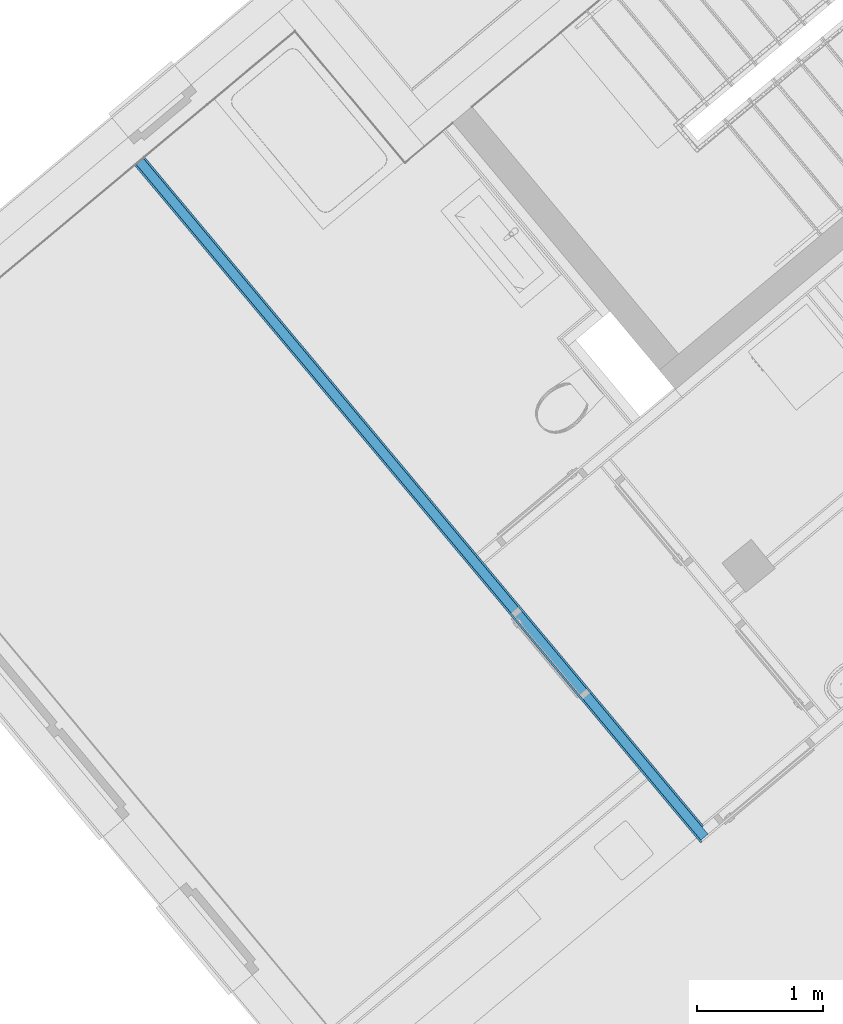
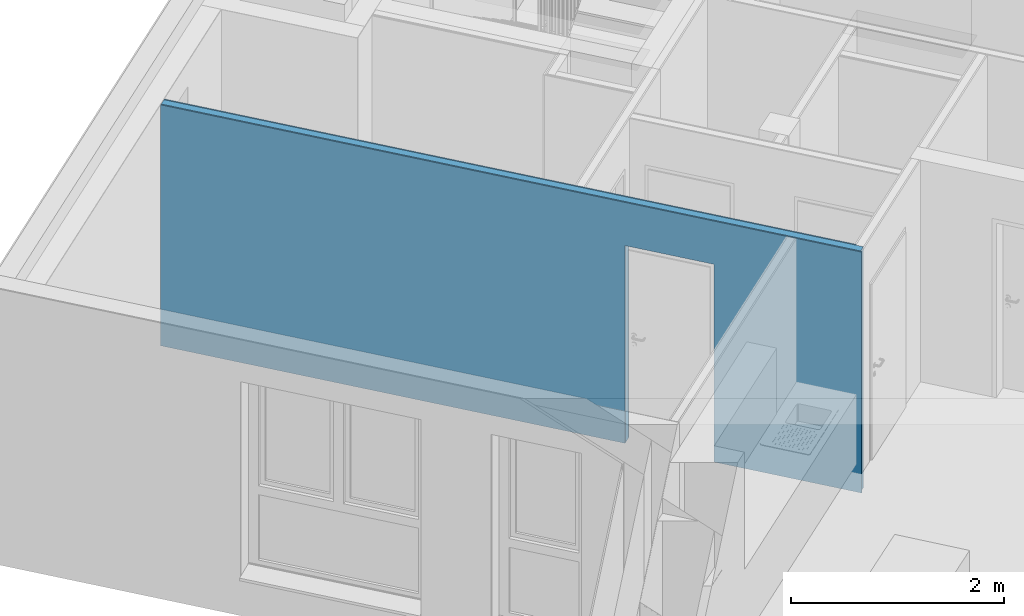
# One storey, part 2 of 53: 3 building element parts, 1 opening, 1 element without a shape of its own.
"""IFC4 building model written with IfcOpenShell, lengths in metres."""

import ifcopenshell
import ifcopenshell.guid

model = None  # the IFC model being written
_history = None  # IfcOwnerHistory: only IFC2X3 demands one
_inside = {}  # id of a spatial element -> (the spatial element, [elements in it])
_under = {}  # id of a project, library or spatial element -> (it, [spatial elements below it])
_declared = {}  # id of a project -> (the project, [libraries it declares])
_typed = {}  # id of a type object -> (the type object, [elements of that type])
_made_of = {}  # id of a material, layer set ... -> (it, [elements and type objects made of it])


def new_model(schema):
    """Start an empty IFC model of exactly this schema.

    Asked for "IFC4X3", IfcOpenShell would pick the latest addendum, in which some entities
    have other attributes; the version numbers below select the first issue.
    IFC2X3 requires an IfcOwnerHistory on every rooted entity: one is made here for all.
    """
    global model, _history
    if schema == "IFC4X3":
        model = ifcopenshell.file(schema_version=(4, 3, 0, 0))
    else:
        model = ifcopenshell.file(schema=schema)
    _inside.clear()
    _under.clear()
    _declared.clear()
    _typed.clear()
    _made_of.clear()
    _history = None
    if model.schema == "IFC2X3":
        org = make("IfcOrganization", Name="unknown")
        user = make(
            "IfcPersonAndOrganization",
            ThePerson=make("IfcPerson", FamilyName="unknown"),
            TheOrganization=org,
        )
        app = make(
            "IfcApplication",
            ApplicationDeveloper=org,
            Version="unknown",
            ApplicationFullName="unknown",
            ApplicationIdentifier="unknown",
        )
        _history = make(
            "IfcOwnerHistory",
            OwningUser=user,
            OwningApplication=app,
            ChangeAction="ADDED",
            CreationDate=0,
        )
    return model


def make(cls, **values):
    """One entity of the class cls with the attributes given. An attribute that is None is left unset."""
    return model.create_entity(
        cls, **{name: value for name, value in values.items() if value is not None}
    )


def entity(cls, *values):
    """Any entity or typed value of the class cls, its attributes in the order of the schema. None: left unset."""
    e = model.create_entity(cls)
    for i, value in enumerate(values):
        if value is not None:
            e[i] = value
    return e


def rooted(cls, **values):
    """An entity with a GlobalId (a new one), such as an element, a storey or a relation."""
    return make(cls, GlobalId=ifcopenshell.guid.new(), OwnerHistory=_history, **values)


def si_unit(unit_type, name, prefix=None):
    """IfcSIUnit, for example si_unit("LENGTHUNIT", "METRE", prefix="MILLI")."""
    return make("IfcSIUnit", UnitType=unit_type, Prefix=prefix, Name=name)


def converted_unit(unit_type, name, factor, base, dimensions=None, offset=None):
    """IfcConversionBasedUnit, such as the inch: factor (a typed value) times the base unit."""
    return make(
        "IfcConversionBasedUnit"
        if offset is None
        else "IfcConversionBasedUnitWithOffset",
        ConversionOffset=offset,
        Dimensions=None
        if dimensions is None
        else entity("IfcDimensionalExponents", *dimensions),
        UnitType=unit_type,
        Name=name,
        ConversionFactor=make(
            "IfcMeasureWithUnit", ValueComponent=factor, UnitComponent=base
        ),
    )


def derived_unit(unit_type, elements):
    """IfcDerivedUnit: a product of units, each with its exponent."""
    return make(
        "IfcDerivedUnit",
        Elements=[
            make("IfcDerivedUnitElement", Unit=unit, Exponent=power)
            for unit, power in elements
        ],
        UnitType=unit_type,
    )


def assignment(units):
    """IfcUnitAssignment: the units of a project."""
    return None if units is None else make("IfcUnitAssignment", Units=units)


def point(xyz):
    """IfcCartesianPoint."""
    return None if xyz is None else make("IfcCartesianPoint", Coordinates=xyz)


def direction(xyz):
    """IfcDirection."""
    return None if xyz is None else make("IfcDirection", DirectionRatios=xyz)


def frame(location, z_axis=None, x_axis=None):
    """IfcAxis2Placement3D, a coordinate frame: its origin and axes. An axis left out is left unset."""
    return make(
        "IfcAxis2Placement3D",
        Location=point(location),
        Axis=direction(z_axis),
        RefDirection=direction(x_axis),
    )


def origin_with_axes():
    """The frame at (0, 0, 0) with the z axis (0, 0, 1) and the x axis (1, 0, 0) written out."""
    return frame((0.0, 0.0, 0.0), z_axis=(0.0, 0.0, 1.0), x_axis=(1.0, 0.0, 0.0))


def place(relative_to, where):
    """IfcLocalPlacement: puts the frame where relative to a parent placement (None: the world)."""
    return make(
        "IfcLocalPlacement", PlacementRelTo=relative_to, RelativePlacement=where
    )


def context(
    kind, dimensions, precision=None, world=None, true_north=None, identifier=None
):
    """IfcGeometricRepresentationContext, for example the 3D "Model" context."""
    return make(
        "IfcGeometricRepresentationContext",
        ContextIdentifier=identifier,
        ContextType=kind,
        CoordinateSpaceDimension=dimensions,
        Precision=precision,
        WorldCoordinateSystem=world,
        TrueNorth=true_north,
    )


def subcontext(parent, identifier, kind, view, scale=None):
    """IfcGeometricRepresentationSubContext, for example "Body" below "Model"."""
    return make(
        "IfcGeometricRepresentationSubContext",
        ContextIdentifier=identifier,
        ContextType=kind,
        ParentContext=parent,
        TargetScale=scale,
        TargetView=view,
    )


def project(units=None, contexts=None):
    """IfcProject with its units and contexts."""
    return rooted(
        "IfcProject",
        Name="project",
        RepresentationContexts=contexts,
        UnitsInContext=assignment(units),
    )


def spatial(cls, under=None, at=None, **own):
    """A site, building, storey or space (cls), placed at a placement, below another one or the project."""
    s = rooted(cls, ObjectPlacement=at, **own)
    if under is not None:
        _under.setdefault(under.id(), (under, []))[1].append(s)
    return s


def point_list(points):
    """IfcCartesianPointList2D or 3D."""
    cls = (
        "IfcCartesianPointList2D" if len(points[0]) == 2 else "IfcCartesianPointList3D"
    )
    return make(cls, CoordList=points)


def polygons(points, faces, closed=None, point_numbers=None):
    """IfcPolygonalFaceSet: a face is its outer loop, then its inner loops; points numbered from 1."""
    made = []
    for loops in faces:
        if len(loops) == 1:
            made.append(make("IfcIndexedPolygonalFace", CoordIndex=loops[0]))
        else:
            made.append(
                make(
                    "IfcIndexedPolygonalFaceWithVoids",
                    CoordIndex=loops[0],
                    InnerCoordIndices=loops[1:],
                )
            )
    return make(
        "IfcPolygonalFaceSet",
        Coordinates=point_list(points),
        Closed=closed,
        Faces=made,
        PnIndex=point_numbers,
    )


def shape(context_of_items, identifier, shape_type, items):
    """IfcShapeRepresentation: the items that make up one representation, for example the "Body"."""
    return make(
        "IfcShapeRepresentation",
        ContextOfItems=context_of_items,
        RepresentationIdentifier=identifier,
        RepresentationType=shape_type,
        Items=items,
    )


def material(Name=None, Category=None):
    """IfcMaterial."""
    return make("IfcMaterial", Name=Name, Category=Category)


def made_of(thing, what):
    """Note that an element or type object is made of a material, layer set ...; save() writes the relation."""
    if what is not None:
        _made_of.setdefault(what.id(), (what, []))[1].append(thing)
    return thing


def type_object(cls, material=None, **own):
    """A type object (cls), such as IfcWallType, which elements share."""
    return made_of(rooted(cls, **own), material)


def element(
    cls,
    number,
    at=None,
    inside=None,
    cuts=None,
    type_object=None,
    material=None,
    context=None,
    identifier="Body",
    shape_type=None,
    held_by="IfcProductDefinitionShape",
    body=None,
    shapes=None,
    **own,
):
    """One element of the class cls, such as IfcWall. Its Tag is "e" and its number.

    at: its placement. inside: the storey or other place that contains it. cuts: it is an
    opening in that element (IfcRelVoidsElement). A single representation is given by context,
    identifier, shape_type and body (its items); several are given by shapes. held_by: the class
    of the entity that holds the representations. save() writes the other relations.
    """
    e = rooted(cls, Tag="e%d" % number, ObjectPlacement=at, **own)
    if body is not None:
        shapes = [shape(context, identifier, shape_type, body)]
    if shapes is not None:
        e.Representation = make(held_by, Representations=shapes)
    if inside is not None:
        _inside.setdefault(inside.id(), (inside, []))[1].append(e)
    if cuts is not None:
        rooted(
            "IfcRelVoidsElement", RelatingBuildingElement=cuts, RelatedOpeningElement=e
        )
    if type_object is not None:
        _typed.setdefault(type_object.id(), (type_object, []))[1].append(e)
    return made_of(e, material)


def aggregate(whole, parts):
    """IfcRelAggregates: a whole, such as a stair, and the parts it consists of."""
    return rooted("IfcRelAggregates", RelatingObject=whole, RelatedObjects=parts)


def save(model, path):
    """Write the relations noted so far, then the file.

    IfcRelAggregates (storeys below a building ...), IfcRelContainedInSpatialStructure (elements
    in a storey), IfcRelDefinesByType, IfcRelAssociatesMaterial and IfcRelDeclares: one each for
    every whole, place, type object, material and project.
    """
    for whole, parts in _under.values():
        aggregate(whole, parts)
    for where, things in _inside.values():
        rooted(
            "IfcRelContainedInSpatialStructure",
            RelatedElements=things,
            RelatingStructure=where,
        )
    for kind, things in _typed.values():
        rooted("IfcRelDefinesByType", RelatedObjects=things, RelatingType=kind)
    for what, things in _made_of.values():
        rooted("IfcRelAssociatesMaterial", RelatedObjects=things, RelatingMaterial=what)
    for by, libraries in _declared.values():
        rooted("IfcRelDeclares", RelatingContext=by, RelatedDefinitions=libraries)
    model.write(path)


model = new_model("IFC4")

# Units and contexts
model_context = context("Model", 3, precision=1e-05, world=origin_with_axes(), true_north=direction((0.0, 1.0)))
body_context = subcontext(model_context, "Body", "Model", "MODEL_VIEW")
ifc_project = project(units=[si_unit("LENGTHUNIT", "METRE"), si_unit("AREAUNIT", "SQUARE_METRE"), si_unit("VOLUMEUNIT", "CUBIC_METRE"), converted_unit("PLANEANGLEUNIT", "DEGREE", entity("IfcPlaneAngleMeasure", 0.0174532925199), si_unit("PLANEANGLEUNIT", "RADIAN"), dimensions=[0, 0, 0, 0, 0, 0, 0]), converted_unit("TIMEUNIT", "Year", entity("IfcTimeMeasure", 31556926.0), si_unit("TIMEUNIT", "SECOND"), dimensions=[0, 0, 1, 0, 0, 0, 0]), si_unit("MASSUNIT", "GRAM", prefix="KILO"), si_unit("THERMODYNAMICTEMPERATUREUNIT", "DEGREE_CELSIUS"), si_unit("LUMINOUSINTENSITYUNIT", "LUMEN"), si_unit("ENERGYUNIT", "JOULE", prefix="MEGA"), derived_unit("THERMALCONDUCTANCEUNIT", [(si_unit("POWERUNIT", "WATT"), 1), (si_unit("LENGTHUNIT", "METRE"), -1), (si_unit("THERMODYNAMICTEMPERATUREUNIT", "KELVIN"), -1)]), derived_unit("SPECIFICHEATCAPACITYUNIT", [(si_unit("ENERGYUNIT", "JOULE"), 1), (si_unit("MASSUNIT", "GRAM", prefix="KILO"), -1), (si_unit("THERMODYNAMICTEMPERATUREUNIT", "KELVIN"), -1)]), derived_unit("MASSDENSITYUNIT", [(si_unit("MASSUNIT", "GRAM", prefix="KILO"), 1), (si_unit("VOLUMEUNIT", "CUBIC_METRE"), -1)])], contexts=[model_context])

# Site, building, storey
site_placement = place(None, frame((-0.00153261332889, -0.00661245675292, 0.0), z_axis=(0.0, 0.0, 1.0), x_axis=(1.0, 0.0, 0.0)))
site = spatial("IfcSite", under=ifc_project, at=site_placement, Name="Gelände", CompositionType="ELEMENT")
building_placement = place(site_placement, origin_with_axes())
building = spatial("IfcBuilding", under=site, at=building_placement, Name="Gebäude", CompositionType="ELEMENT")
storey_placement = place(building_placement, frame((0.0, 0.0, 2.74), z_axis=(0.0, 0.0, 1.0), x_axis=(1.0, 0.0, 0.0)))
storey = spatial("IfcBuildingStorey", under=building, at=storey_placement, Name="OG1", CompositionType="ELEMENT", Elevation=2.74)

# Wall, opening, building element parts
wall_type = type_object("IfcWallType", Name="IW LB 01 Leichtbautrennwand einfach 10,5 cm 105", PredefinedType="NOTDEFINED")
wall_placement = place(storey_placement, frame((-6.64013670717, 22.2194246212, 0.0), z_axis=(0.0, 0.0, 1.0), x_axis=(0.641209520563, -0.767365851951, 0.0)))
wall = element("IfcWall", 1, at=wall_placement, inside=storey, type_object=wall_type, Name="Wand-012", PredefinedType="NOTDEFINED")
opening_placement = place(wall_placement, frame((5.2926346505, 0.0, 0.22), z_axis=(0.0, 0.0, 1.0), x_axis=(1.0, 0.0, 0.0)))
element("IfcOpeningElement", 2, at=opening_placement, cuts=wall, Name="Tür-016", context=body_context, identifier="Reference", shape_type="Tessellation", body=[
    polygons([(0.445, 3.60289339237, 2.045), (0.445, 3.60289339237, -0.22), (-0.445, 3.60289339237, -0.22), (-0.445, 3.60289339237, 2.045), (0.445, -3.49789339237, 2.045), (0.445, -3.49789339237, -0.22), (-0.445, -3.49789339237, -0.22), (-0.445, -3.49789339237, 2.045)], [[[1, 2, 3, 4]], [[5, 6, 2, 1]], [[6, 7, 3, 2]], [[7, 8, 4, 3]], [[8, 5, 1, 4]], [[7, 6, 5, 8]]], closed=True),
])
ifc_material_1 = material(Name="Gipskarton")
building_element_part_1_placement = place(wall_placement, origin_with_axes())
building_element_part_1 = element("IfcBuildingElementPart", 3, at=building_element_part_1_placement, material=ifc_material_1, Name="Gipskarton", PredefinedType="NOTDEFINED", context=body_context, shape_type="Tessellation", body=[
    polygons([(4.8476346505, 0.105, 2.265), (4.8476346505, 0.105, 0.22), (4.84763465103, 0.105, 0.0), (0.205013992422, 0.105, 0.0), (0.205013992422, 0.105, 2.76), (7.12189601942, 0.105, 2.76), (7.12189601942, 0.105, 0.0), (5.7376346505, 0.105, 0.0), (5.7376346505, 0.105, 0.22), (5.7376346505, 0.105, 2.265), (4.8476346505, 0.09, 2.265), (4.8476346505, 0.09, 0.22), (4.84763465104, 0.09, 0.0), (0.20501393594, 0.09, 0.0), (0.20501393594, 0.09, 2.76), (7.12189601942, 0.09, 2.76), (7.12189601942, 0.09, 0.0), (5.7376346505, 0.09, 0.0), (5.7376346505, 0.09, 0.22), (5.7376346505, 0.09, 2.265)], [[[1, 2, 3, 4, 5, 6, 7, 8, 9, 10]], [[2, 1, 11, 12]], [[2, 12, 13, 3]], [[13, 14, 4, 3]], [[4, 14, 15, 5]], [[6, 5, 15, 16]], [[7, 6, 16, 17]], [[8, 7, 17, 18]], [[19, 9, 8, 18]], [[10, 9, 19, 20]], [[1, 10, 20, 11]], [[20, 19, 18, 17, 16, 15, 14, 13, 12, 11]]], closed=True),
])
ifc_material_2 = material(Name="Mineralwolle weich")
building_element_part_2_placement = place(wall_placement, origin_with_axes())
building_element_part_2 = element("IfcBuildingElementPart", 4, at=building_element_part_2_placement, material=ifc_material_2, Name="Mineralwolle weich", PredefinedType="NOTDEFINED", context=body_context, shape_type="Tessellation", body=[
    polygons([(4.8476346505, 0.09, 2.265), (4.8476346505, 0.09, 0.22), (4.84763465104, 0.09, 0.0), (0.20501393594, 0.09, 0.0), (0.20501393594, 0.09, 2.76), (7.19689601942, 0.09, 2.76), (7.19689601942, 0.09, 0.0), (5.7376346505, 0.09, 0.0), (5.7376346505, 0.09, 0.22), (5.7376346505, 0.09, 2.265), (4.8476346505, 0.015, 2.265), (4.8476346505, 0.015, 0.22), (4.84763465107, 0.015, 0.0), (0.205013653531, 0.015, 0.0), (0.205013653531, 0.015, 2.76), (7.19689601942, 0.015, 2.76), (7.19689601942, 0.015, 0.0), (5.7376346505, 0.015, 0.0), (5.7376346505, 0.015, 0.22), (5.7376346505, 0.015, 2.265)], [[[1, 2, 3, 4, 5, 6, 7, 8, 9, 10]], [[2, 1, 11, 12]], [[2, 12, 13, 3]], [[13, 14, 4, 3]], [[4, 14, 15, 5]], [[6, 5, 15, 16]], [[7, 6, 16, 17]], [[8, 7, 17, 18]], [[19, 9, 8, 18]], [[10, 9, 19, 20]], [[1, 10, 20, 11]], [[20, 19, 18, 17, 16, 15, 14, 13, 12, 11]]], closed=True),
])
building_element_part_3_placement = place(wall_placement, origin_with_axes())
building_element_part_3 = element("IfcBuildingElementPart", 5, at=building_element_part_3_placement, material=ifc_material_1, Name="Gipskarton", PredefinedType="NOTDEFINED", context=body_context, shape_type="Tessellation", body=[
    polygons([(4.8476346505, 0.015, 2.265), (4.8476346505, 0.015, 0.22), (4.84763465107, 0.015, 0.0), (0.205013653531, 0.015, 0.0), (0.205013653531, 0.015, 2.76), (7.21189601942, 0.015, 2.76), (7.21189601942, 0.015, 0.0), (5.7376346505, 0.015, 0.0), (5.7376346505, 0.015, 0.22), (5.7376346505, 0.015, 2.265), (4.8476346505, -2.18957616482e-08, 2.265), (4.8476346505, -2.36324080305e-08, 0.22), (4.84763465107, -2.36324044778e-08, 0.0), (0.205013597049, 0.0, 0.0), (0.205013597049, 0.0, 2.76), (7.21189601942, 0.0, 2.76), (7.21189601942, 0.0, 0.0), (5.7376346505, -2.18957616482e-08, 0.0), (5.7376346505, -2.18957616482e-08, 0.22), (5.7376346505, -2.18957616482e-08, 2.265)], [[[1, 2, 3, 4, 5, 6, 7, 8, 9, 10]], [[2, 1, 11, 12]], [[2, 12, 13, 3]], [[13, 14, 4, 3]], [[4, 14, 15, 5]], [[6, 5, 15, 16]], [[7, 6, 16, 17]], [[8, 7, 17, 18]], [[19, 9, 8, 18]], [[10, 9, 19, 20]], [[1, 10, 20, 11]], [[20, 19, 18, 17, 16, 15, 14, 13, 12, 11]]], closed=True),
])
aggregate(wall, [building_element_part_1, building_element_part_2, building_element_part_3])

save(model, "model.ifc")
